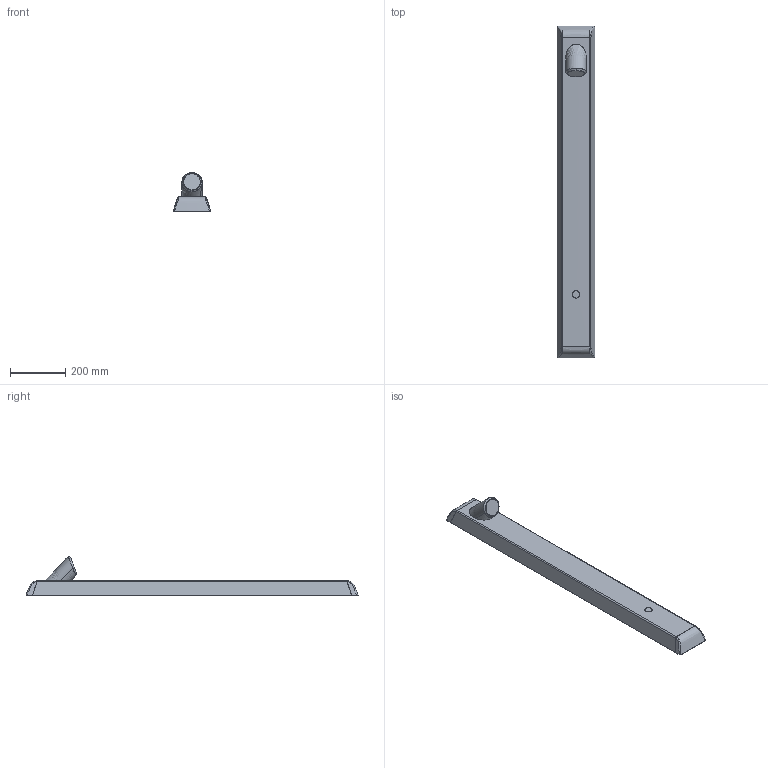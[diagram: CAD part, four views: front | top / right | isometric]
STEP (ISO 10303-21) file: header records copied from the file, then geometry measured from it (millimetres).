
FILE_DESCRIPTION (( 'STEP AP203' ), '1' );
FILE_NAME ('9620FZ(2026)+96202219(2026).STEP', '2026-02-10T09:16:16', ( '' ), ( '' ), 'SwSTEP 2.0', 'SolidWorks 2024', '' );
FILE_SCHEMA (( 'CONFIG_CONTROL_DESIGN' ));
Length unit declared in the file: millimetre
Products named in the file (1): 9620FZ(2026)+96202219(2026)
Bounding box: 135.43 x 1198.7 x 139.02 mm (x, y, z)
Volume: 7594607 mm3; surface area: 472244.4 mm2
Topology: 5 solids, 5 shells, 146 faces, 365 edges, 223 vertices
Faces by surface type: bspline 93, cylinder 29, plane 22, cone 2
Entity records: 12432 total; most frequent: CARTESIAN_POINT 9659, ORIENTED_EDGE 710, EDGE_CURVE 355, DIRECTION 336, VERTEX_POINT 223, B_SPLINE_CURVE_WITH_KNOTS 199, EDGE_LOOP 150, ADVANCED_FACE 146
